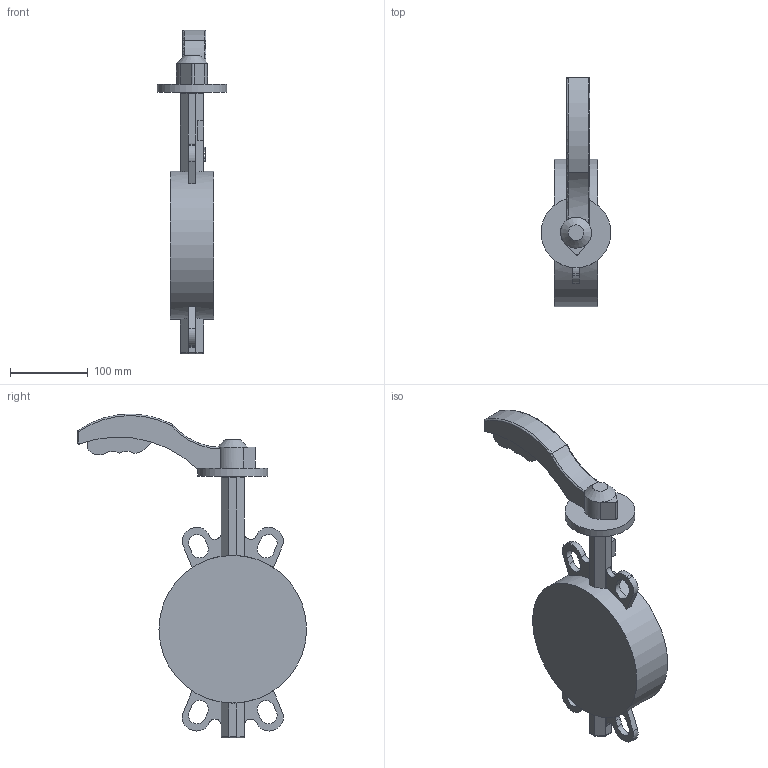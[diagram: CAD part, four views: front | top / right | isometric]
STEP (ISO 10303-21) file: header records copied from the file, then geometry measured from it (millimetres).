
FILE_DESCRIPTION(/* description */ (''),/* implementation_level */ '2;1');
FILE_NAME(/* name */ 'DN150-.stp',/* time_stamp */ '2026-08-17T09:59:15+08:00',/* author */ (''),/* organization */ (''),/* preprocessor_version */ 'ST-DEVELOPER v16.7',/* originating_system */ 'SIEMENS PLM Software NX 12.0',/* authorisation */ '');
FILE_SCHEMA (('AUTOMOTIVE_DESIGN { 1 0 10303 214 3 1 1 1 }'));
Length unit declared in the file: millimetre
Products named in the file (2): 4-6寸手柄; DN150
Assembly tree (1 placements, depth 2):
  DN150
    4-6寸手柄
Bounding box: 90 x 295 x 416.91 mm (x, y, z)
Volume: 2027535.5 mm3; surface area: 167891.2 mm2
Topology: 8 solids, 8 shells, 216 faces, 565 edges, 368 vertices
Faces by surface type: plane 99, cylinder 57, extrusion 53, torus 4, sphere 2, cone 1
Full cylindrical faces by diameter (mm): 90 x1, 190 x1
Entity records: 6990 total; most frequent: CARTESIAN_POINT 1689, ORIENTED_EDGE 1122, DIRECTION 959, EDGE_CURVE 561, VECTOR 375, VERTEX_POINT 367, LINE 322, AXIS2_PLACEMENT_3D 292
